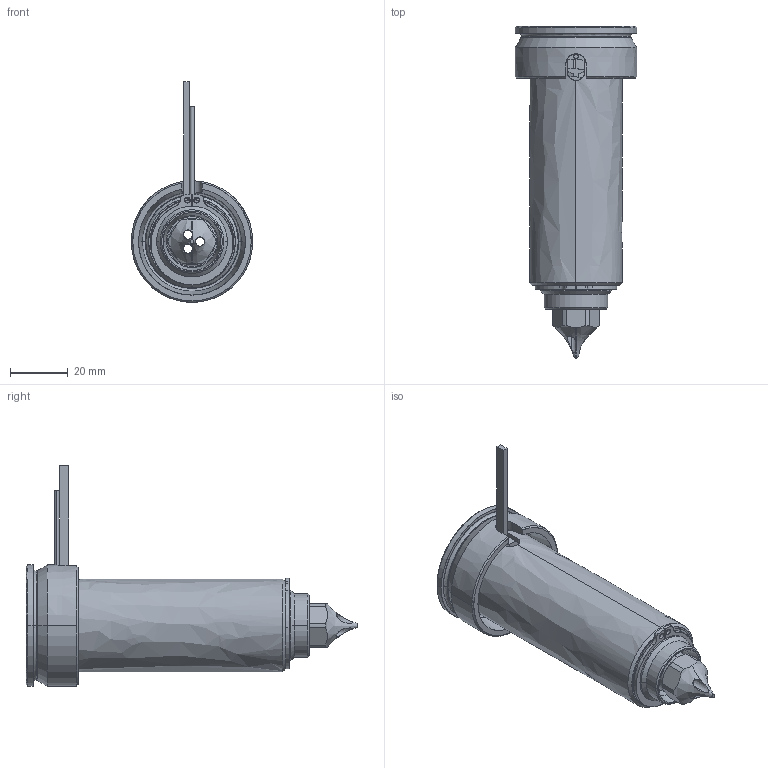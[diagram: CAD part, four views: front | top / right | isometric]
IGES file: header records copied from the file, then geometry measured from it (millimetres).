
Start section: SolidWorks IGES file using analytic representation for surfaces
Global section: file name: C:\Users\luca.EMPAD\Desktop\TEM\UGDL3613-S-A-1 [Øf=1.3 ØC=09].IGS; native system: SolidWorks 2012; preprocessor: SolidWorks 2012; author: luca; date: 120330.155722; units: millimetre
Bounding box: 42 x 114.8 x 76.3 mm (x, y, z)
Surface area: 36764.8 mm2 (no closed solid volume)
Topology: 0 solids, 0 shells, 126 faces, 2238 edges, 2238 vertices
Faces by surface type: revolution 81, bspline 45
